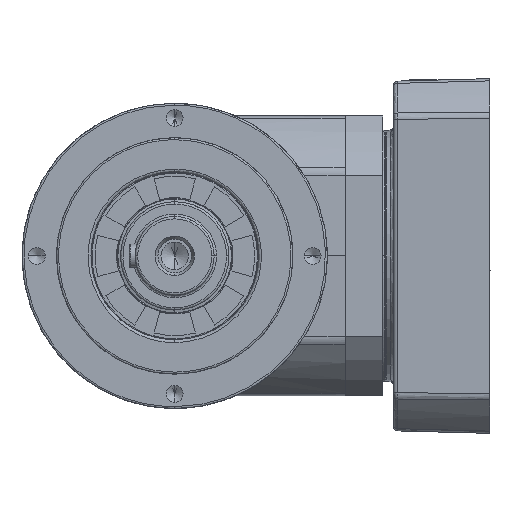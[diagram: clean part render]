
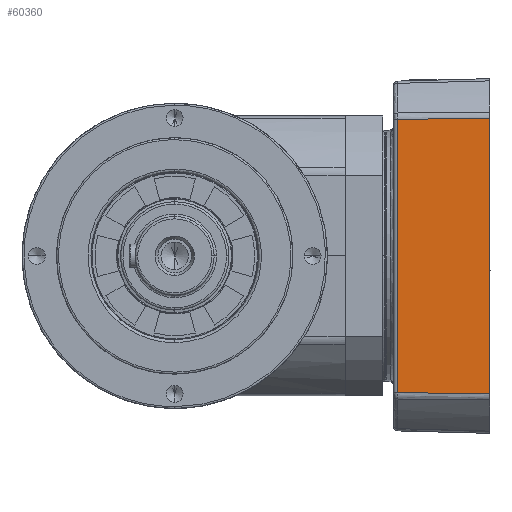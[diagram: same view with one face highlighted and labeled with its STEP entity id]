
A CAD part, left-side view. The second image highlights one B-rep face of the part: STEP entity #60360.
In plain terms, the highlighted free-form (B-spline) face has degree [1, 1] with [2, 2] control points.
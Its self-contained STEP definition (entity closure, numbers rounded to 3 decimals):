
#2733 = CARTESIAN_POINT ( 'NONE',  ( 43.72, -162.68, 220.272 ) ) ;
#8822 = CARTESIAN_POINT ( 'NONE',  ( 43.72, -162.68, 220.272 ) ) ;
#10938 = CARTESIAN_POINT ( 'NONE',  ( 44.953, -115.628, 219.829 ) ) ;
#12710 = B_SPLINE_SURFACE_WITH_KNOTS ( 'NONE', 1, 1, ( 
 ( #104556, #71527 ),
 ( #128056, #44652 ) ),
 .UNSPECIFIED., .F., .F., .F.,
 ( 2, 2 ),
 ( 2, 2 ),
 ( 0., 1. ),
 ( 0., 1. ),
 .UNSPECIFIED. ) ;
#16343 = VERTEX_POINT ( 'NONE', #106683 ) ;
#20380 = DIRECTION ( 'NONE',  ( 0., 0., -1. ) ) ;
#22106 = CARTESIAN_POINT ( 'NONE',  ( 43.72, -162.68, 220.272 ) ) ;
#27293 = CARTESIAN_POINT ( 'NONE',  ( 43.72, -162.68, 80.628 ) ) ;
#30605 = VECTOR ( 'NONE', #20380, 1000. ) ;
#35790 = CARTESIAN_POINT ( 'NONE',  ( 43.72, -162.68, 80.628 ) ) ;
#37585 = B_SPLINE_CURVE_WITH_KNOTS ( 'NONE', 3,
 ( #22106, #55130, #99913, #142572 ),
 .UNSPECIFIED., .F., .F.,
 ( 4, 4 ),
 ( 0., 1. ),
 .UNSPECIFIED. ) ;
#39032 = CARTESIAN_POINT ( 'NONE',  ( 44.542, -131.306, 80.923 ) ) ;
#39428 = EDGE_CURVE ( 'NONE', #91623, #101883, #37585, .T. ) ;
#44037 = ORIENTED_EDGE ( 'NONE', *, *, #39428, .T. ) ;
#44652 = CARTESIAN_POINT ( 'NONE',  ( 44.953, -115.628, 221.11 ) ) ;
#55130 = CARTESIAN_POINT ( 'NONE',  ( 44.131, -146.996, 220.124 ) ) ;
#57869 = CARTESIAN_POINT ( 'NONE',  ( 44.953, -115.628, 81.071 ) ) ;
#60360 = ADVANCED_FACE ( 'NONE', ( #82540 ), #12710, .T. ) ;
#62931 = ORIENTED_EDGE ( 'NONE', *, *, #81142, .F. ) ;
#71527 = CARTESIAN_POINT ( 'NONE',  ( 44.953, -115.628, 79.79 ) ) ;
#78792 = EDGE_CURVE ( 'NONE', #101883, #119076, #84993, .T. ) ;
#81142 = EDGE_CURVE ( 'NONE', #91623, #16343, #140647, .T. ) ;
#82540 = FACE_OUTER_BOUND ( 'NONE', #131091, .T. ) ;
#83788 = CARTESIAN_POINT ( 'NONE',  ( 44.131, -146.991, 80.776 ) ) ;
#84993 = LINE ( 'NONE', #143747, #30605 ) ;
#90357 = ORIENTED_EDGE ( 'NONE', *, *, #78792, .T. ) ;
#91623 = VERTEX_POINT ( 'NONE', #8822 ) ;
#99913 = CARTESIAN_POINT ( 'NONE',  ( 44.542, -131.312, 219.977 ) ) ;
#101883 = VERTEX_POINT ( 'NONE', #10938 ) ;
#104556 = CARTESIAN_POINT ( 'NONE',  ( 43.72, -162.68, 79.79 ) ) ;
#105097 = CARTESIAN_POINT ( 'NONE',  ( 44.953, -115.628, 81.071 ) ) ;
#105592 = ORIENTED_EDGE ( 'NONE', *, *, #108646, .F. ) ;
#106683 = CARTESIAN_POINT ( 'NONE',  ( 43.72, -162.68, 80.628 ) ) ;
#108646 = EDGE_CURVE ( 'NONE', #16343, #119076, #138221, .T. ) ;
#119076 = VERTEX_POINT ( 'NONE', #57869 ) ;
#128056 = CARTESIAN_POINT ( 'NONE',  ( 43.72, -162.68, 221.11 ) ) ;
#131091 = EDGE_LOOP ( 'NONE', ( #62931, #44037, #90357, #105592 ) ) ;
#138221 = B_SPLINE_CURVE_WITH_KNOTS ( 'NONE', 3,
 ( #27293, #83788, #39032, #105097 ),
 .UNSPECIFIED., .F., .F.,
 ( 4, 4 ),
 ( 0., 1. ),
 .UNSPECIFIED. ) ;
#140647 = B_SPLINE_CURVE_WITH_KNOTS ( 'NONE', 1,
 ( #2733, #35790 ),
 .UNSPECIFIED., .F., .F.,
 ( 2, 2 ),
 ( 0., 1. ),
 .UNSPECIFIED. ) ;
#142572 = CARTESIAN_POINT ( 'NONE',  ( 44.953, -115.628, 219.829 ) ) ;
#143747 = CARTESIAN_POINT ( 'NONE',  ( 44.953, -115.628, 150.45 ) ) ;
